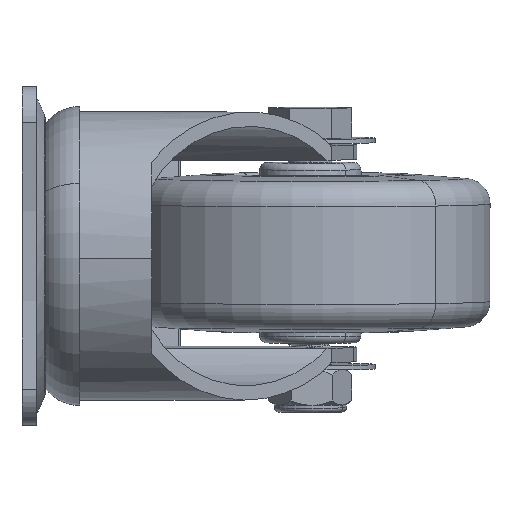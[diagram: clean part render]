
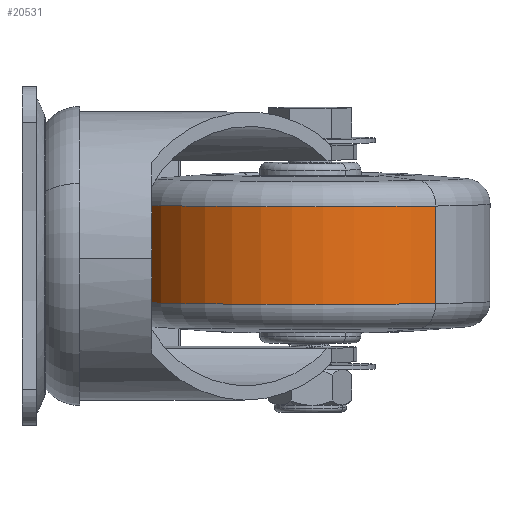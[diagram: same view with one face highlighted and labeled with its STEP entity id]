
A CAD part, left-side view. The second image highlights one B-rep face of the part: STEP entity #20531.
In plain terms, the highlighted cylindrical face has radius 25 mm (diameter 50 mm), a partial arc.
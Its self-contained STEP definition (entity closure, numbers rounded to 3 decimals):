
#732 = ORIENTED_EDGE ( 'NONE', *, *, #20284, .F. ) ;
#838 = CYLINDRICAL_SURFACE ( 'NONE', #18026, 25. ) ;
#4202 = FACE_OUTER_BOUND ( 'NONE', #29653, .T. ) ;
#4435 = CARTESIAN_POINT ( 'NONE',  ( 0., 6.767, 25. ) ) ;
#4702 = DIRECTION ( 'NONE',  ( 0., 0., -1. ) ) ;
#5467 = EDGE_CURVE ( 'NONE', #37102, #13866, #28550, .T. ) ;
#6697 = DIRECTION ( 'NONE',  ( 0., 0., -1. ) ) ;
#7135 = DIRECTION ( 'NONE',  ( 0., 0., -1. ) ) ;
#9096 = CARTESIAN_POINT ( 'NONE',  ( 0., 0., 25. ) ) ;
#11135 = DIRECTION ( 'NONE',  ( 0., -1., 0. ) ) ;
#11512 = VECTOR ( 'NONE', #11135, 1000. ) ;
#13686 = CIRCLE ( 'NONE', #19384, 25. ) ;
#13866 = VERTEX_POINT ( 'NONE', #20616 ) ;
#17025 = VECTOR ( 'NONE', #36407, 1000. ) ;
#18026 = AXIS2_PLACEMENT_3D ( 'NONE', #31713, #23921, #7135 ) ;
#18589 = EDGE_CURVE ( 'NONE', #31947, #37102, #13686, .T. ) ;
#19384 = AXIS2_PLACEMENT_3D ( 'NONE', #40679, #23693, #6697 ) ;
#19404 = CARTESIAN_POINT ( 'NONE',  ( 0., -6.767, 25. ) ) ;
#20191 = CIRCLE ( 'NONE', #33061, 25. ) ;
#20284 = EDGE_CURVE ( 'NONE', #22351, #13866, #20191, .T. ) ;
#20531 = ADVANCED_FACE ( 'NONE', ( #4202 ), #838, .T. ) ;
#20616 = CARTESIAN_POINT ( 'NONE',  ( 0., -6.767, -25. ) ) ;
#22020 = ORIENTED_EDGE ( 'NONE', *, *, #5467, .T. ) ;
#22296 = LINE ( 'NONE', #9096, #17025 ) ;
#22351 = VERTEX_POINT ( 'NONE', #19404 ) ;
#23693 = DIRECTION ( 'NONE',  ( 0., -1., 0. ) ) ;
#23898 = ORIENTED_EDGE ( 'NONE', *, *, #27077, .F. ) ;
#23921 = DIRECTION ( 'NONE',  ( 0., -1., 0. ) ) ;
#25699 = CARTESIAN_POINT ( 'NONE',  ( 0., -6.767, 0. ) ) ;
#27077 = EDGE_CURVE ( 'NONE', #31947, #22351, #22296, .T. ) ;
#27458 = CARTESIAN_POINT ( 'NONE',  ( 0., 6.767, -25. ) ) ;
#28550 = LINE ( 'NONE', #31700, #11512 ) ;
#29653 = EDGE_LOOP ( 'NONE', ( #23898, #36308, #22020, #732 ) ) ;
#31700 = CARTESIAN_POINT ( 'NONE',  ( 0., 0., -25. ) ) ;
#31713 = CARTESIAN_POINT ( 'NONE',  ( 0., 0., 0. ) ) ;
#31947 = VERTEX_POINT ( 'NONE', #4435 ) ;
#31987 = DIRECTION ( 'NONE',  ( 0., -1., 0. ) ) ;
#33061 = AXIS2_PLACEMENT_3D ( 'NONE', #25699, #31987, #4702 ) ;
#36308 = ORIENTED_EDGE ( 'NONE', *, *, #18589, .T. ) ;
#36407 = DIRECTION ( 'NONE',  ( 0., -1., 0. ) ) ;
#37102 = VERTEX_POINT ( 'NONE', #27458 ) ;
#40679 = CARTESIAN_POINT ( 'NONE',  ( 0., 6.767, 0. ) ) ;
